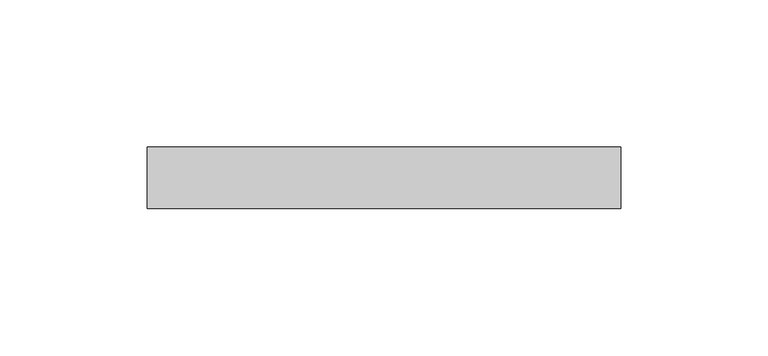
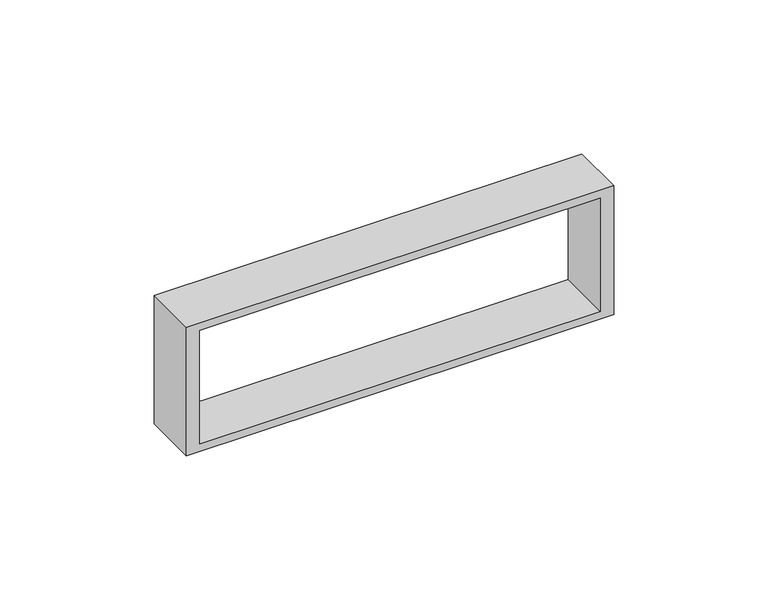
"""IFC4 building model written with IfcOpenShell, lengths in millimetres: proxy geometry, КНС_Каркас6МодулейДляМонтажаЭУИСерииViva_ILF_DKC : Белый."""

from ifc_helpers import new_model, si_unit, frame, origin, place, context, project, spatial, polyline, outline, extrude, source, transform, mapped, element, save


def electrical_fixtures_432b87b8(model_context):
    return source(origin(), model_context, "Body", "SweptSolid", [
        extrude(outline(polyline([(25.5, 80.2), (25.5, -80.2), (-25.5, -80.2), (-25.5, 80.2), (25.5, 80.2)]), holes=[polyline([(22.5, 75.0), (-22.5, 75.0), (-22.5, -75.0), (22.5, -75.0), (22.5, 75.0)])]), frame((0.0, -20.8, 0.0), z_axis=(0.0, 1.0, 0.0), x_axis=(0.0, 0.0, 1.0)), (0.0, 0.0, 1.0), 20.8),
    ])


if __name__ == "__main__":
    model = new_model("IFC4")
    model_context = context("Model", 3, world=origin())
    ifc_project = project(units=[si_unit("LENGTHUNIT", "METRE", prefix="MILLI")], contexts=[model_context])
    site = spatial("IfcSite", under=ifc_project)
    building = spatial("IfcBuilding", under=site)
    placement = place(None, origin())
    electrical_fixtures_shape = electrical_fixtures_432b87b8(model_context)
    element("IfcBuildingElementProxy", 1, Name="КНС_Каркас6МодулейДляМонтажаЭУИСерииViva_ILF_DKC : Белый", ObjectType="КНС_Каркас6МодулейДляМонтажаЭУИСерииViva_ILF_DKC : Белый", at=placement, inside=building, context=model_context, shape_type="MappedRepresentation", body=[
        mapped(electrical_fixtures_shape, transform((0.0, 0.0, 0.0), x_axis=(1.0, 0.0, 0.0), y_axis=(0.0, 1.0, 0.0), z_axis=(0.0, 0.0, 1.0))),
    ])
    save(model, "model.ifc")
